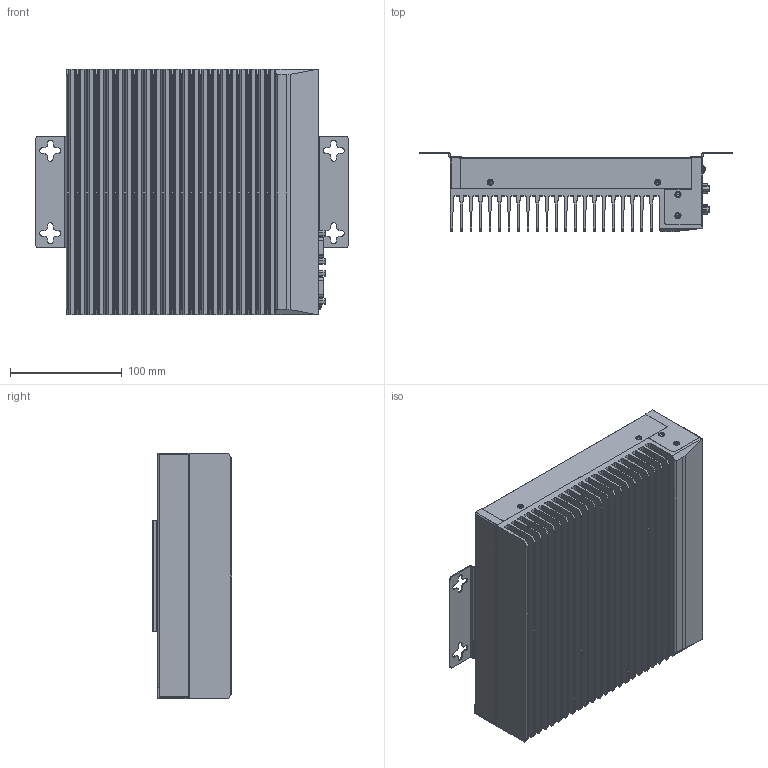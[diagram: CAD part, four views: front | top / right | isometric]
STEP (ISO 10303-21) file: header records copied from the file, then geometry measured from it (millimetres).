
FILE_DESCRIPTION (( 'STEP AP214' ), '1' );
FILE_NAME ('V31X.STEP', '2023-08-16T02:44:18', ( '' ), ( '' ), 'SwSTEP 2.0', 'SolidWorks 2017', '' );
FILE_SCHEMA (( 'AUTOMOTIVE_DESIGN' ));
Length unit declared in the file: millimetre
Products named in the file (28): GB／T95-2002平垫圈C级3×0．5; MANIFOLD_SOLID_BREP_35457; USB-3-LAN_1; 2-COM-9PIN_ASM_1_ASM; AUDIO_1; D-SUB-RAM-9PIN_1; GB823-88十字槽小盘头螺钉M3×5; MB_ASM_1_ASM; SUPPORT-SPCC_1; GB_X2_FFFD_X0_T819_X2_FFFD_X0_1-2000_X2_02AEFFFD05B206F3_FFFD0377FFFD0776FFFD_X0_M3_X2_FFFDFFFD_X0_12; MANIFOLD_SOLID_BREP_35818; COVER-SECC_2; 3PIN_1; RXE-2100_ASM_5_ASM; IO-COVER_2; V31X; ZZJ_2; TOP_2; _X2_FFFDFFFD0138_X0_1; RIGHT-COVER_4; gb_assembly; D-COM-H-9PIN_1; POWER-11_1; ZZJ_ASM_2_ASM; DP-DP_1_ASM; POWER-SWITCH-1111_1; LED_1; VGA_1
Assembly tree (51 placements, depth 5):
  V31X
    RXE-2100_ASM_5_ASM
      TOP_2
      MB_ASM_1_ASM
        3PIN_1
        AUDIO_1
        USB-3-LAN_1  x3
        DP-DP_1_ASM
          MANIFOLD_SOLID_BREP_35457
          MANIFOLD_SOLID_BREP_35818
        2-COM-9PIN_ASM_1_ASM
          D-SUB-RAM-9PIN_1  x2
        VGA_1
        LED_1
        POWER-SWITCH-1111_1
        D-COM-H-9PIN_1
        POWER-11_1
      ZZJ_ASM_2_ASM
        ZZJ_2
      RIGHT-COVER_4
      IO-COVER_2
      COVER-SECC_2
      SUPPORT-SPCC_1  x2
    gb_assembly
      _X2_FFFDFFFD0138_X0_1  x6
      GB_X2_FFFD_X0_T819_X2_FFFD_X0_1-2000_X2_02AEFFFD05B206F3_FFFD0377FFFD0776FFFD_X0_M3_X2_FFFDFFFD_X0_12  x8
    GB_X2_FFFD_X0_T819_X2_FFFD_X0_1-2000_X2_02AEFFFD05B206F3_FFFD0377FFFD0776FFFD_X0_M3_X2_FFFDFFFD_X0_12  x8
    GB／T95-2002平垫圈C级3×0．5
    GB823-88十字槽小盘头螺钉M3×5
Bounding box: 279.7 x 71 x 220.2 mm (x, y, z)
Volume: 869760.2 mm3; surface area: 673700.9 mm2
Topology: 45 solids, 47 shells, 3169 faces, 7517 edges, 4730 vertices
Faces by surface type: plane 1598, cylinder 1263, bspline 212, cone 96
Entity records: 84310 total; most frequent: CARTESIAN_POINT 21552, ORIENTED_EDGE 10334, DIRECTION 10118, EDGE_CURVE 5167, AXIS2_PLACEMENT_3D 3569, VERTEX_POINT 3355, LINE 2980, VECTOR 2980
